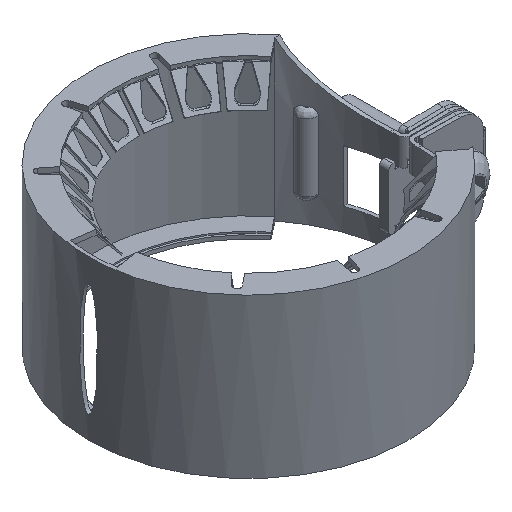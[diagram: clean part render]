
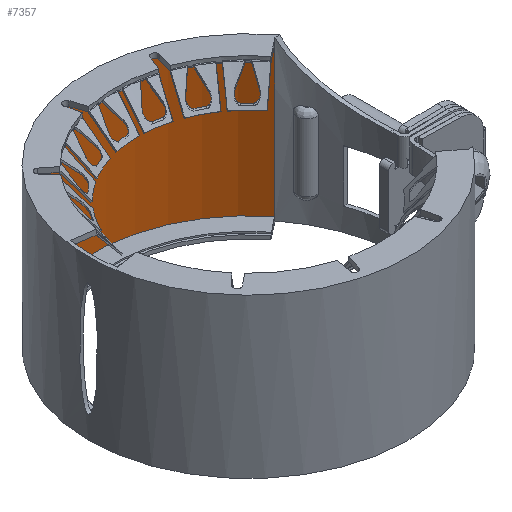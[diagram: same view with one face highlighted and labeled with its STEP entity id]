
A CAD part, isometric view. The second image highlights one B-rep face of the part: STEP entity #7357.
In plain terms, the highlighted cylindrical face has radius 34 mm (diameter 68 mm), a partial arc.
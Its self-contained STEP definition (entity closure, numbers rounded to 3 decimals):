
#973=LINE('',#13762,#1529);
#974=LINE('',#13763,#1530);
#1529=VECTOR('',#9743,32.7);
#1530=VECTOR('',#9744,32.7);
#1802=CIRCLE('',#7953,34.);
#1812=CIRCLE('',#7979,34.);
#1917=CYLINDRICAL_SURFACE('',#7980,34.);
#2262=FACE_OUTER_BOUND('',#2651,.T.);
#2651=EDGE_LOOP('',(#6485,#6486,#6487,#6488));
#3435=VERTEX_POINT('',#13696);
#3436=VERTEX_POINT('',#13698);
#3449=VERTEX_POINT('',#13756);
#3450=VERTEX_POINT('',#13758);
#4465=EDGE_CURVE('',#3435,#3436,#1802,.T.);
#4492=EDGE_CURVE('',#3449,#3450,#1812,.T.);
#4493=EDGE_CURVE('',#3449,#3435,#973,.T.);
#4494=EDGE_CURVE('',#3436,#3450,#974,.T.);
#6485=ORIENTED_EDGE('',*,*,#4493,.F.);
#6486=ORIENTED_EDGE('',*,*,#4492,.T.);
#6487=ORIENTED_EDGE('',*,*,#4494,.F.);
#6488=ORIENTED_EDGE('',*,*,#4465,.F.);
#7357=ADVANCED_FACE('',(#2262),#1917,.F.);
#7953=AXIS2_PLACEMENT_3D('',#13699,#9672,#9673);
#7979=AXIS2_PLACEMENT_3D('',#13760,#9739,#9740);
#7980=AXIS2_PLACEMENT_3D('',#13761,#9741,#9742);
#9672=DIRECTION('center_axis',(0.,0.,
-1.));
#9673=DIRECTION('ref_axis',(-0.989,0.149,0.));
#9739=DIRECTION('center_axis',(0.,0.,
-1.));
#9740=DIRECTION('ref_axis',(-0.989,0.149,0.));
#9741=DIRECTION('center_axis',(0.,0.,
-1.));
#9742=DIRECTION('ref_axis',(-0.989,0.149,0.));
#9743=DIRECTION('',(0.,0.,1.));
#9744=DIRECTION('',(0.,0.,-1.));
#13696=CARTESIAN_POINT('',(-33.621,5.065,16.35));
#13698=CARTESIAN_POINT('',(26.737,21.004,16.35));
#13699=CARTESIAN_POINT('Origin',(0.,0.,
16.35));
#13756=CARTESIAN_POINT('',(-33.621,5.065,-16.35));
#13758=CARTESIAN_POINT('',(26.737,21.004,-16.35));
#13760=CARTESIAN_POINT('Origin',(0.,0.,-16.35));
#13761=CARTESIAN_POINT('Origin',(0.,0.,
0.));
#13762=CARTESIAN_POINT('',(-33.621,5.065,-16.35));
#13763=CARTESIAN_POINT('',(26.737,21.004,-16.35));
